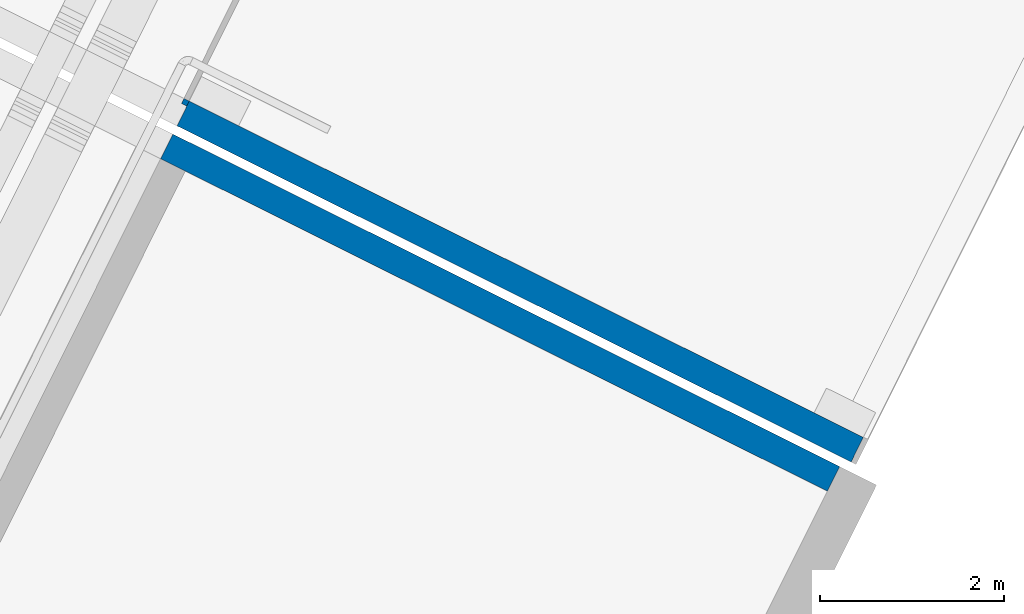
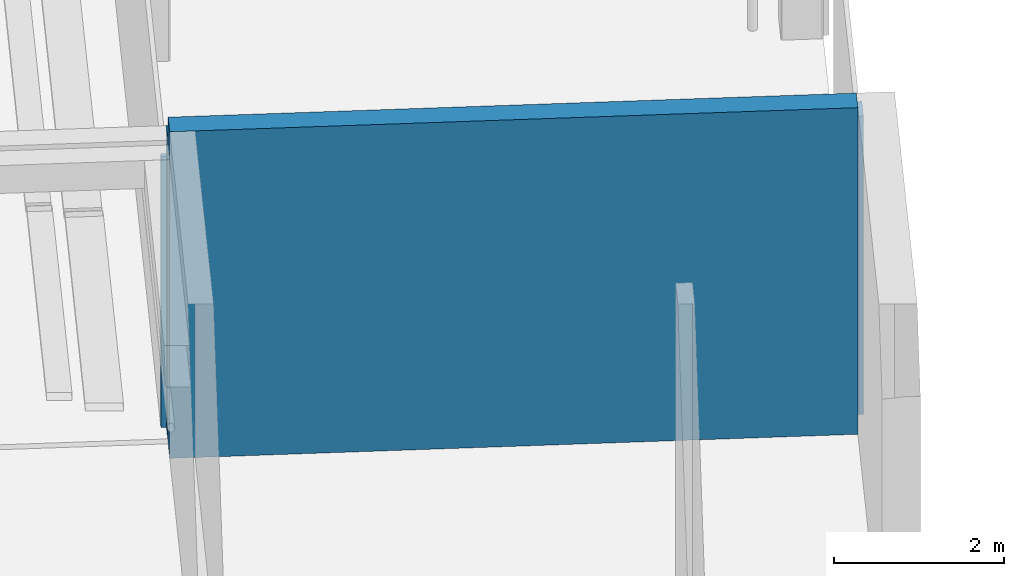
# One storey, part 14 of 91: 3 walls.
"""IFC2X3 building model written with IfcOpenShell, lengths in metres."""

from ifc_helpers import new_model, entity, si_unit, converted_unit, derived_unit, direction, frame, frame_2d, origin, origin_2d_with_axis, place, context, subcontext, project, spatial, rectangle, extrude, material, layer, layer_set, layer_usage, type_object, element, save


model = new_model("IFC2X3")

# Units and contexts
model_context = context("Model", 3, precision=1e-05, world=origin(), true_north=direction((0.894925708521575, 0.446215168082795)))
context_of_model = context(None, 3, precision=1e-05, world=origin(), true_north=direction((0.894925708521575, 0.446215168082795)))
body_context = subcontext(model_context, "Body", "Model", "MODEL_VIEW")
ifc_project = project(units=[si_unit("LENGTHUNIT", "METRE"), si_unit("AREAUNIT", "SQUARE_METRE"), si_unit("VOLUMEUNIT", "CUBIC_METRE"), converted_unit("PLANEANGLEUNIT", "DEGREE", entity("IfcRatioMeasure", 0.0174532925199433), si_unit("PLANEANGLEUNIT", "RADIAN"), dimensions=[0, 0, 0, 0, 0, 0, 0]), si_unit("MASSUNIT", "GRAM", prefix="KILO"), si_unit("TIMEUNIT", "SECOND"), si_unit("FREQUENCYUNIT", "HERTZ"), si_unit("THERMODYNAMICTEMPERATUREUNIT", "DEGREE_CELSIUS"), derived_unit("THERMALTRANSMITTANCEUNIT", [(si_unit("MASSUNIT", "GRAM", prefix="KILO"), 1), (si_unit("THERMODYNAMICTEMPERATUREUNIT", "KELVIN"), -1), (si_unit("TIMEUNIT", "SECOND"), -3)]), derived_unit("VOLUMETRICFLOWRATEUNIT", [(si_unit("LENGTHUNIT", "METRE"), 3), (si_unit("TIMEUNIT", "SECOND"), -1)]), si_unit("ELECTRICCURRENTUNIT", "AMPERE"), si_unit("ELECTRICVOLTAGEUNIT", "VOLT"), si_unit("POWERUNIT", "WATT"), si_unit("FORCEUNIT", "NEWTON", prefix="KILO"), si_unit("ILLUMINANCEUNIT", "LUX"), si_unit("LUMINOUSFLUXUNIT", "LUMEN"), si_unit("LUMINOUSINTENSITYUNIT", "CANDELA"), si_unit("PRESSUREUNIT", "PASCAL")], contexts=[model_context, context_of_model])

# Site, building, storey
site_placement = place(None, frame((218.228324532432, 584.720189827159, 0.0), z_axis=(0.0, 0.0, 1.0), x_axis=(0.446215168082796, 0.894925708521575, 0.0)))
site = spatial("IfcSite", under=ifc_project, at=site_placement, Name="Default", CompositionType="ELEMENT")
building_placement = place(site_placement, origin())
building = spatial("IfcBuilding", under=site, at=building_placement, CompositionType="ELEMENT")
storey_placement = place(building_placement, origin())
storey = spatial("IfcBuildingStorey", under=building, at=storey_placement, Name="0 - Piano Terra", CompositionType="ELEMENT", Elevation=0.0)

# Walls
ifc_material_1 = material(Name="Default - Calcestruzzo")
ifc_layer_1 = layer(ifc_material_1, 0.3)
ifc_layer_set_1 = layer_set([ifc_layer_1], Name="Muro di base:Setto CA - 30 cm")
ifc_layer_usage_1 = layer_usage(ifc_layer_set_1, "AXIS2", "NEGATIVE", 0.15)
wall_type_1 = type_object("IfcWallType", Name="Muro di base:Setto CA - 30 cm", PredefinedType="STANDARD", material=ifc_layer_set_1)
wall_1_placement = place(storey_placement, frame((10.9442149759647, -5.00107899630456, 0.0), z_axis=(0.0, 0.0, 1.0), x_axis=(0.0, -1.0, 0.0)))
element("IfcWallStandardCase", 1, at=wall_1_placement, inside=storey, type_object=wall_type_1, material=ifc_layer_usage_1, Name="Muro di base:Setto CA - 30 cm", ObjectType="Muro di base:Setto CA - 30 cm", context=body_context, shape_type="SweptSolid", body=[
    extrude(rectangle(XDim=8.10999999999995, YDim=0.300000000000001, at=frame_2d((4.05499999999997, -3.46944695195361e-16), x_axis=(-1.0, 0.0))), origin(), (0.0, 0.0, 1.0), 4.69),
])
ifc_material_2 = material(Name="Alluminio")
ifc_layer_2 = layer(ifc_material_2, 0.01)
ifc_material_3 = material(Name="Plastica")
ifc_layer_3 = layer(ifc_material_3, 0.04)
ifc_layer_4 = layer(ifc_material_2, 0.01)
ifc_layer_set_2 = layer_set([ifc_layer_2, ifc_layer_3, ifc_layer_4], Name="Muro di base:Pannello coibentato - 6 cm")
ifc_layer_usage_2 = layer_usage(ifc_layer_set_2, "AXIS2", "NEGATIVE", 0.03)
wall_type_2 = type_object("IfcWallType", Name="Muro di base:Pannello coibentato - 6 cm", PredefinedType="STANDARD", material=ifc_layer_set_2)
wall_2_placement = place(storey_placement, frame((11.4642149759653, -5.00107899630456, 0.0), z_axis=(0.0, 0.0, 1.0), x_axis=(0.0, 1.0, 0.0)))
element("IfcWallStandardCase", 2, at=wall_2_placement, inside=storey, type_object=wall_type_2, material=ifc_layer_usage_2, Name="Muro di base:Pannello coibentato - 6 cm", ObjectType="Muro di base:Pannello coibentato - 6 cm", context=body_context, shape_type="SweptSolid", body=[
    extrude(rectangle(XDim=0.0649999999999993, YDim=0.0599999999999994, at=frame_2d((0.0324999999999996, 0.0), x_axis=(-1.0, 0.0))), origin(), (0.0, 0.0, 1.0), 3.89),
])
wall_type_3 = type_object("IfcWallType", Name="Setto C.a.3:Setto C.a.", PredefinedType="NOTDEFINED", material=ifc_material_1)
wall_3_placement = place(storey_placement, frame((11.1942149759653, -13.2010789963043, 0.0), z_axis=(0.0, 0.0, 1.0), x_axis=(0.0, 1.0, 0.0)))
element("IfcWall", 3, at=wall_3_placement, inside=storey, type_object=wall_type_3, material=ifc_material_1, Name="Setto C.a.3:Setto C.a.", ObjectType="Setto C.a.3:Setto C.a.", context=body_context, shape_type="SweptSolid", body=[
    extrude(rectangle(XDim=0.299999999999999, YDim=8.19999999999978, at=origin_2d_with_axis()), frame((4.09999999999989, -0.150000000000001, 0.0), z_axis=(0.0, 0.0, 1.0), x_axis=(0.0, 1.0, 0.0)), (0.0, 0.0, 1.0), 4.29),
])

save(model, "model.ifc")
